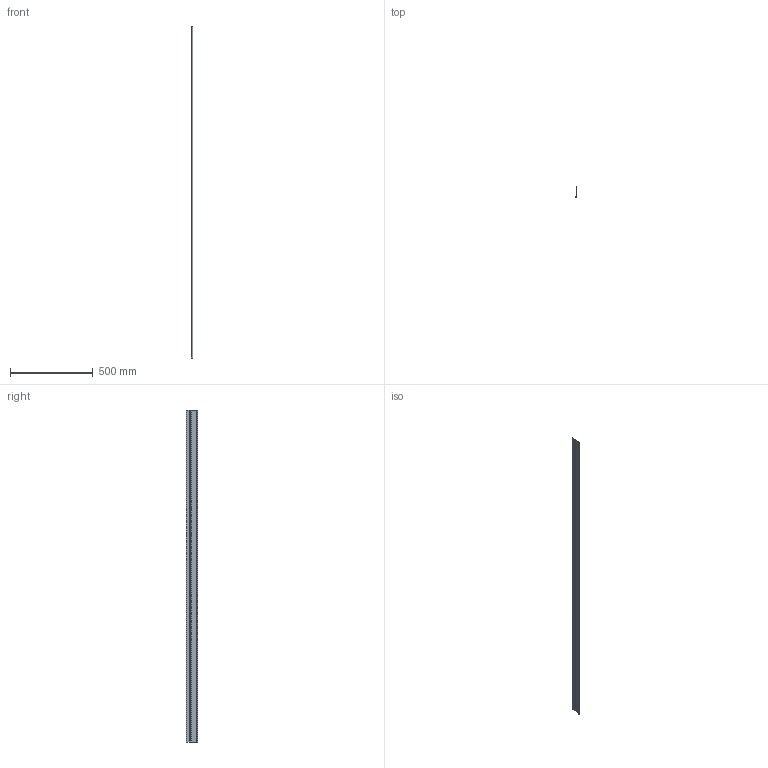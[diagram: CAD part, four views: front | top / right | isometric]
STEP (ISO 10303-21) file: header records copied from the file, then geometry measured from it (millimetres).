
FILE_DESCRIPTION (( 'STEP AP203' ), '1' );
FILE_NAME ('M10S14.STEP', '2018-06-19T12:11:51', ( 'Michael Moliner' ), ( '' ), 'SwSTEP 2.0', 'SolidWorks 2018', '' );
FILE_SCHEMA (( 'CONFIG_CONTROL_DESIGN' ));
Length unit declared in the file: inch
Products named in the file (2): M10S14
Bounding box: 8.69 x 66.67 x 2000 mm (x, y, z)
Volume: 84534.5 mm3; surface area: 334929.6 mm2
Topology: 1 solids, 1 shells, 28 faces, 78 edges, 52 vertices
Faces by surface type: plane 18, cylinder 10
Entity records: 1059 total; most frequent: CARTESIAN_POINT 160, DIRECTION 158, ORIENTED_EDGE 156, EDGE_CURVE 78, VECTOR 58, LINE 58, VERTEX_POINT 52, AXIS2_PLACEMENT_3D 50
